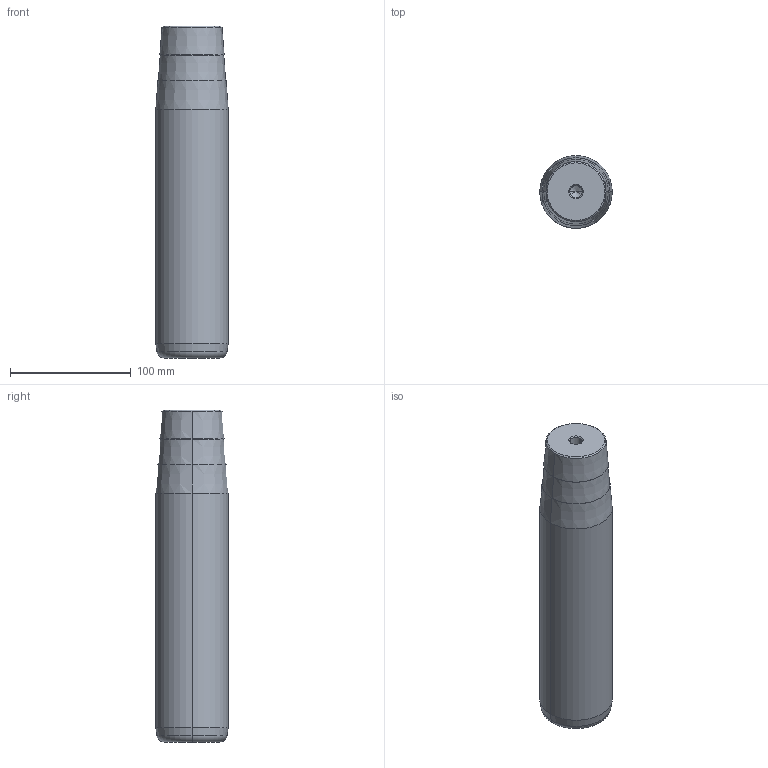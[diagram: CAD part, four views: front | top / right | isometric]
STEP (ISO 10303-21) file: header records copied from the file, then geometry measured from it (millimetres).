
FILE_DESCRIPTION(('CATIA V5 STEP Exchange'),'2;1');
FILE_NAME('C:\Users\Utente\Desktop\IO LAVORO\3D X SITO CF\X SITO\722\722-60x224x275.stp','2021-01-07T19:31:08+00:00',('none'),('none'),'CATIA Version 5 Release 20 GA (IN-10)','CATIA V5 STEP AP203','none');
FILE_SCHEMA(('CONFIG_CONTROL_DESIGN'));
Length unit declared in the file: millimetre
Products named in the file (1): 722-60x224x275
Bounding box: 60 x 60 x 275 mm (x, y, z)
Volume: 737649.5 mm3; surface area: 56583.5 mm2
Topology: 1 solids, 1 shells, 32 faces, 66 edges, 34 vertices
Faces by surface type: cone 22, cylinder 6, plane 2, torus 2
Entity records: 866 total; most frequent: CARTESIAN_POINT 189, ORIENTED_EDGE 124, DIRECTION 123, AXIS2_PLACEMENT_3D 64, EDGE_CURVE 62, EDGE_LOOP 34, VERTEX_POINT 34, ADVANCED_FACE 32
